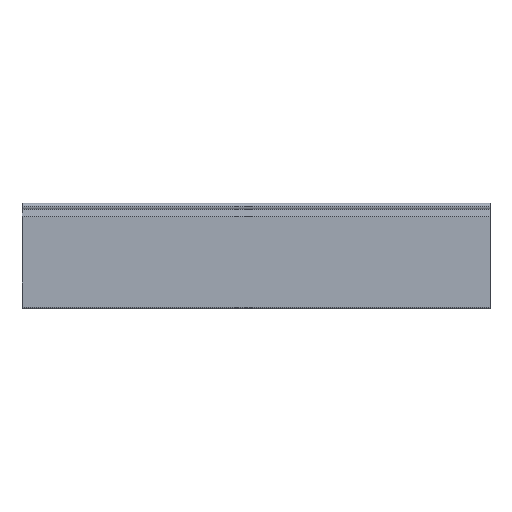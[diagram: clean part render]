
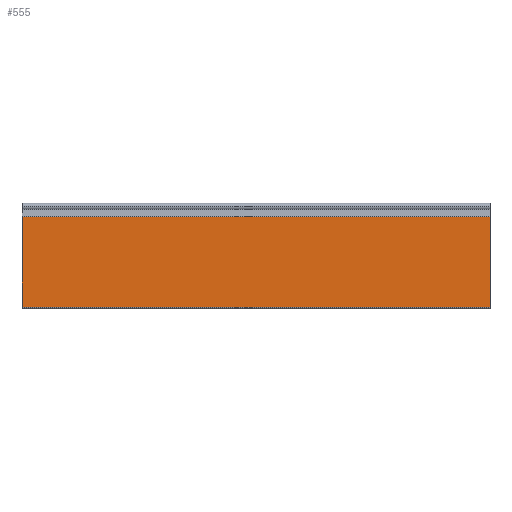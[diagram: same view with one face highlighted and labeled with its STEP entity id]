
A CAD part, top view. The second image highlights one B-rep face of the part: STEP entity #555.
In plain terms, the highlighted planar face has unit normal (0, 0, 1).
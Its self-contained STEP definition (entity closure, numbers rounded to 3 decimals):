
#9 = VERTEX_POINT ( 'NONE', #63 ) ;
#15 = VERTEX_POINT ( 'NONE', #69 ) ;
#36 = VERTEX_POINT ( 'NONE', #90 ) ;
#47 = VERTEX_POINT ( 'NONE', #101 ) ;
#63 = CARTESIAN_POINT ( 'NONE',  ( 283., -12.164, 4.05 ) ) ;
#69 = CARTESIAN_POINT ( 'NONE',  ( 283., -121.663, 4.05 ) ) ;
#90 = CARTESIAN_POINT ( 'NONE',  ( -283., -12.164, 4.05 ) ) ;
#101 = CARTESIAN_POINT ( 'NONE',  ( -283., -121.663, 4.05 ) ) ;
#119 = CARTESIAN_POINT ( 'NONE',  ( 283., -12.164, 4.05 ) ) ;
#120 = PLANE ( 'NONE',  #742 ) ;
#122 = DIRECTION ( 'NONE',  ( 0., 0., -1. ) ) ;
#123 = DIRECTION ( 'NONE',  ( 0., 1., 0. ) ) ;
#159 = CARTESIAN_POINT ( 'NONE',  ( 283., -12.164, 4.05 ) ) ;
#161 = DIRECTION ( 'NONE',  ( 0., -1., 0. ) ) ;
#317 = CARTESIAN_POINT ( 'NONE',  ( -283., -12.164, 4.05 ) ) ;
#326 = DIRECTION ( 'NONE',  ( 0., -1., 0. ) ) ;
#494 = CARTESIAN_POINT ( 'NONE',  ( 283., -12.164, 4.05 ) ) ;
#495 = DIRECTION ( 'NONE',  ( -1., 0., 0. ) ) ;
#496 = CARTESIAN_POINT ( 'NONE',  ( 283., -121.663, 4.05 ) ) ;
#497 = DIRECTION ( 'NONE',  ( -1., 0., 0. ) ) ;
#555 = ADVANCED_FACE ( 'NONE', ( #1054 ), #120, .F. ) ;
#574 = EDGE_LOOP ( 'NONE', ( #799, #800, #801, #802 ) ) ;
#711 = EDGE_CURVE ( 'NONE', #9, #15, #1106, .T. ) ;
#742 = AXIS2_PLACEMENT_3D ( 'NONE', #119, #122, #123 ) ;
#799 = ORIENTED_EDGE ( 'NONE', *, *, #945, .T. ) ;
#800 = ORIENTED_EDGE ( 'NONE', *, *, #958, .F. ) ;
#801 = ORIENTED_EDGE ( 'NONE', *, *, #711, .F. ) ;
#802 = ORIENTED_EDGE ( 'NONE', *, *, #957, .T. ) ;
#945 = EDGE_CURVE ( 'NONE', #36, #47, #1189, .T. ) ;
#957 = EDGE_CURVE ( 'NONE', #9, #36, #1211, .T. ) ;
#958 = EDGE_CURVE ( 'NONE', #15, #47, #1213, .T. ) ;
#1054 = FACE_OUTER_BOUND ( 'NONE', #574, .T. ) ;
#1102 = VECTOR ( 'NONE', #161, 1000. ) ;
#1106 = LINE ( 'NONE', #159, #1102 ) ;
#1186 = VECTOR ( 'NONE', #326, 1000. ) ;
#1189 = LINE ( 'NONE', #317, #1186 ) ;
#1211 = LINE ( 'NONE', #494, #1212 ) ;
#1212 = VECTOR ( 'NONE', #495, 1000. ) ;
#1213 = LINE ( 'NONE', #496, #1214 ) ;
#1214 = VECTOR ( 'NONE', #497, 1000. ) ;
